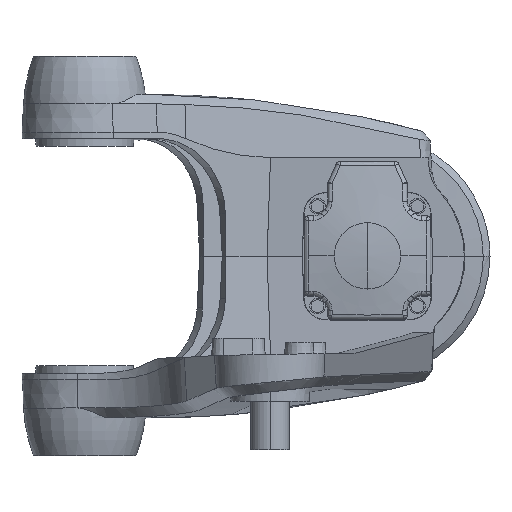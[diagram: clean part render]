
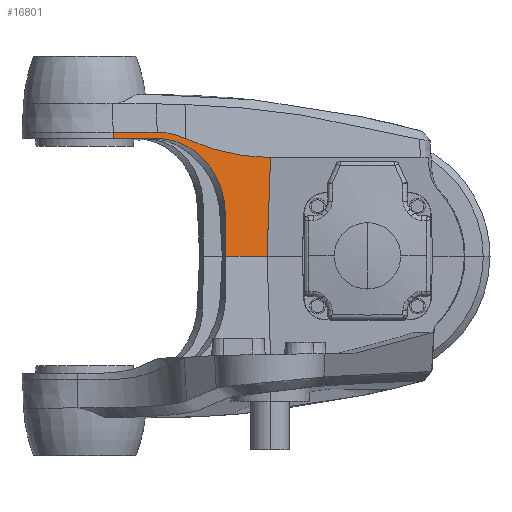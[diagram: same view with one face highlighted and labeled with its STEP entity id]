
A CAD part, top view. The second image highlights one B-rep face of the part: STEP entity #16801.
In plain terms, the highlighted planar face has unit normal (0.451, -0.035, 0.892).
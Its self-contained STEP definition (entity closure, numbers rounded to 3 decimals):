
#1133 = CARTESIAN_POINT ( 'NONE',  ( 1794.761, -2.795, 2088.702 ) ) ;
#2245 = CARTESIAN_POINT ( 'NONE',  ( 1677.077, -7.25, 2148.043 ) ) ;
#2535 = VERTEX_POINT ( 'NONE', #40263 ) ;
#2804 = CARTESIAN_POINT ( 'NONE',  ( 1767.467, 107.161, 2106.808 ) ) ;
#3729 = CARTESIAN_POINT ( 'NONE',  ( 1837., -7.25, 2067.167 ) ) ;
#4718 = CARTESIAN_POINT ( 'NONE',  ( 1793.543, 81.59, 2092.621 ) ) ;
#4999 = DIRECTION ( 'NONE',  ( -0.892, 0., 0.451 ) ) ;
#5404 = VECTOR ( 'NONE', #41804, 1000. ) ;
#5437 = VERTEX_POINT ( 'NONE', #56535 ) ;
#6914 = DIRECTION ( 'NONE',  ( -0.892, 0., 0.451 ) ) ;
#7027 = CARTESIAN_POINT ( 'NONE',  ( 1678.976, 113.25, 2151.798 ) ) ;
#7570 = DIRECTION ( 'NONE',  ( 0.035, 0.999, 0.021 ) ) ;
#7573 = EDGE_CURVE ( 'NONE', #16384, #39257, #41324, .T. ) ;
#8986 = VECTOR ( 'NONE', #66193, 1000. ) ;
#9008 = EDGE_CURVE ( 'NONE', #29672, #53878, #24907, .T. ) ;
#9429 = CARTESIAN_POINT ( 'NONE',  ( 1751.336, 114.254, 2115.244 ) ) ;
#9887 = ORIENTED_EDGE ( 'NONE', *, *, #11869, .T. ) ;
#10598 = CARTESIAN_POINT ( 'NONE',  ( 1741.724, 117.537, 2120.233 ) ) ;
#11869 = EDGE_CURVE ( 'NONE', #2535, #16384, #53962, .T. ) ;
#11936 = EDGE_CURVE ( 'NONE', #29039, #5437, #66563, .T. ) ;
#12025 = CARTESIAN_POINT ( 'NONE',  ( 1744.163, 116.85, 2118.973 ) ) ;
#12377 = CARTESIAN_POINT ( 'NONE',  ( 1679.079, 119.75, 2152. ) ) ;
#13337 = CARTESIAN_POINT ( 'NONE',  ( 1840.527, 93.75, 2069.336 ) ) ;
#15568 = CARTESIAN_POINT ( 'NONE',  ( 1764.802, 113.25, 2108.394 ) ) ;
#15755 = EDGE_CURVE ( 'NONE', #39257, #53878, #16395, .T. ) ;
#15783 = CARTESIAN_POINT ( 'NONE',  ( 1753.654, 113.17, 2114.029 ) ) ;
#16252 = CARTESIAN_POINT ( 'NONE',  ( 1726.749, 119.75, 2127.893 ) ) ;
#16384 = VERTEX_POINT ( 'NONE', #36560 ) ;
#16395 = LINE ( 'NONE', #63638, #5404 ) ;
#16801 = ADVANCED_FACE ( 'NONE', ( #49357 ), #50498, .F. ) ;
#19206 = DIRECTION ( 'NONE',  ( 0.892, 0., -0.451 ) ) ;
#19759 = CARTESIAN_POINT ( 'NONE',  ( 1803.448, 97.022, 2088.215 ) ) ;
#21426 = CARTESIAN_POINT ( 'NONE',  ( 1724.22, 119.75, 2129.172 ) ) ;
#23842 = CARTESIAN_POINT ( 'NONE',  ( 1836.866, -11.092, 2067.085 ) ) ;
#23882 = LINE ( 'NONE', #23842, #47597 ) ;
#24907 = LINE ( 'NONE', #70059, #66431 ) ;
#25318 = ORIENTED_EDGE ( 'NONE', *, *, #11936, .F. ) ;
#26013 = VECTOR ( 'NONE', #44933, 1000. ) ;
#26245 = CARTESIAN_POINT ( 'NONE',  ( 1724.111, 113.25, 2128.972 ) ) ;
#28183 = ORIENTED_EDGE ( 'NONE', *, *, #45773, .F. ) ;
#28572 = CARTESIAN_POINT ( 'NONE',  ( 1734.291, 119.056, 2124.051 ) ) ;
#28755 = EDGE_CURVE ( 'NONE', #32617, #29039, #61620, .T. ) ;
#28869 = CARTESIAN_POINT ( 'NONE',  ( 1677.077, -7.25, 2148.043 ) ) ;
#29039 = VERTEX_POINT ( 'NONE', #45648 ) ;
#29672 = VERTEX_POINT ( 'NONE', #56801 ) ;
#29766 = CARTESIAN_POINT ( 'NONE',  ( 1840.527, 93.75, 2069.336 ) ) ;
#30246 = CARTESIAN_POINT ( 'NONE',  ( 1760.496, 109.972, 2110.444 ) ) ;
#32617 = VERTEX_POINT ( 'NONE', #3729 ) ;
#34451 = ORIENTED_EDGE ( 'NONE', *, *, #28755, .F. ) ;
#35173 = CARTESIAN_POINT ( 'NONE',  ( 1781.668, 102.31, 2099.437 ) ) ;
#36560 = CARTESIAN_POINT ( 'NONE',  ( 1724.22, 119.75, 2129.172 ) ) ;
#39257 = VERTEX_POINT ( 'NONE', #47899 ) ;
#40263 = CARTESIAN_POINT ( 'NONE',  ( 1753.654, 113.17, 2114.029 ) ) ;
#41324 = LINE ( 'NONE', #12377, #60881 ) ;
#41804 = DIRECTION ( 'NONE',  ( -0.016, -0.999, -0.031 ) ) ;
#42715 = VERTEX_POINT ( 'NONE', #13337 ) ;
#44398 = CARTESIAN_POINT ( 'NONE',  ( 1748.974, 115.206, 2116.475 ) ) ;
#44933 = DIRECTION ( 'NONE',  ( -0.892, 0., 0.451 ) ) ;
#45648 = CARTESIAN_POINT ( 'NONE',  ( 1794.826, -7.25, 2088.496 ) ) ;
#45773 = EDGE_CURVE ( 'NONE', #5437, #29672, #64367, .T. ) ;
#46184 = DIRECTION ( 'NONE',  ( -0.451, 0.035, -0.892 ) ) ;
#47476 = CARTESIAN_POINT ( 'NONE',  ( 1753.654, 113.17, 2114.029 ) ) ;
#47597 = VECTOR ( 'NONE', #7570, 1000. ) ;
#47706 = EDGE_LOOP ( 'NONE', ( #55331, #56189, #9887, #67445, #53113, #55621, #28183, #25318, #34451 ) ) ;
#47899 = CARTESIAN_POINT ( 'NONE',  ( 1679.079, 119.75, 2152. ) ) ;
#48248 = CARTESIAN_POINT ( 'NONE',  ( 1794.201, 36.042, 2090.506 ) ) ;
#49357 = FACE_OUTER_BOUND ( 'NONE', #47706, .T. ) ;
#49948 = B_SPLINE_CURVE_WITH_KNOTS ( 'NONE', 3,
 ( #29766, #62191, #62658, #67619, #19759, #57697, #35173, #2804, #30246, #47476 ),
 .UNSPECIFIED., .F., .F.,
 ( 4, 2, 2, 2, 4 ),
 ( 0., 0.25, 0.5, 0.75, 1. ),
 .UNSPECIFIED. ) ;
#50119 = CARTESIAN_POINT ( 'NONE',  ( 1736.783, 118.641, 2122.775 ) ) ;
#50498 = PLANE ( 'NONE',  #62376 ) ;
#53113 = ORIENTED_EDGE ( 'NONE', *, *, #15755, .T. ) ;
#53878 = VERTEX_POINT ( 'NONE', #7027 ) ;
#53962 = B_SPLINE_CURVE_WITH_KNOTS ( 'NONE', 3,
 ( #15783, #9429, #44398, #12025, #10598, #50119, #28572, #64550, #16252, #21426 ),
 .UNSPECIFIED., .F., .F.,
 ( 4, 2, 2, 2, 4 ),
 ( 0., 0.25, 0.5, 0.75, 1. ),
 .UNSPECIFIED. ) ;
#55331 = ORIENTED_EDGE ( 'NONE', *, *, #69083, .T. ) ;
#55621 = ORIENTED_EDGE ( 'NONE', *, *, #9008, .F. ) ;
#56189 = ORIENTED_EDGE ( 'NONE', *, *, #57544, .T. ) ;
#56535 = CARTESIAN_POINT ( 'NONE',  ( 1794.201, 36.042, 2090.506 ) ) ;
#56801 = CARTESIAN_POINT ( 'NONE',  ( 1724.111, 113.25, 2128.972 ) ) ;
#57544 = EDGE_CURVE ( 'NONE', #42715, #2535, #49948, .T. ) ;
#57697 = CARTESIAN_POINT ( 'NONE',  ( 1788.865, 100.282, 2095.718 ) ) ;
#60881 = VECTOR ( 'NONE', #6914, 1000. ) ;
#61620 = LINE ( 'NONE', #28869, #26013 ) ;
#62191 = CARTESIAN_POINT ( 'NONE',  ( 1833.064, 93.75, 2073.11 ) ) ;
#62376 = AXIS2_PLACEMENT_3D ( 'NONE', #2245, #46184, #19206 ) ;
#62658 = CARTESIAN_POINT ( 'NONE',  ( 1825.626, 94.16, 2076.887 ) ) ;
#63638 = CARTESIAN_POINT ( 'NONE',  ( 1677.077, -7.25, 2148.043 ) ) ;
#64367 =( BOUNDED_CURVE ( )  B_SPLINE_CURVE ( 3, ( #48248, #4718, #15568, #26245 ),
 .UNSPECIFIED., .F., .F. ) 
 B_SPLINE_CURVE_WITH_KNOTS ( ( 4, 4 ),
 ( 2.338, 3.874 ),
 .UNSPECIFIED. ) 
 CURVE ( )  GEOMETRIC_REPRESENTATION_ITEM ( )  RATIONAL_B_SPLINE_CURVE ( ( 1., 0.813, 0.813, 1. ) ) 
 REPRESENTATION_ITEM ( '' )  );
#64550 = CARTESIAN_POINT ( 'NONE',  ( 1729.269, 119.611, 2126.613 ) ) ;
#66193 = DIRECTION ( 'NONE',  ( -0.014, 0.999, 0.046 ) ) ;
#66431 = VECTOR ( 'NONE', #4999, 1000. ) ;
#66563 = LINE ( 'NONE', #1133, #8986 ) ;
#67445 = ORIENTED_EDGE ( 'NONE', *, *, #7573, .T. ) ;
#67619 = CARTESIAN_POINT ( 'NONE',  ( 1810.801, 95.797, 2084.449 ) ) ;
#69083 = EDGE_CURVE ( 'NONE', #32617, #42715, #23882, .T. ) ;
#70059 = CARTESIAN_POINT ( 'NONE',  ( 1678.976, 113.25, 2151.798 ) ) ;
